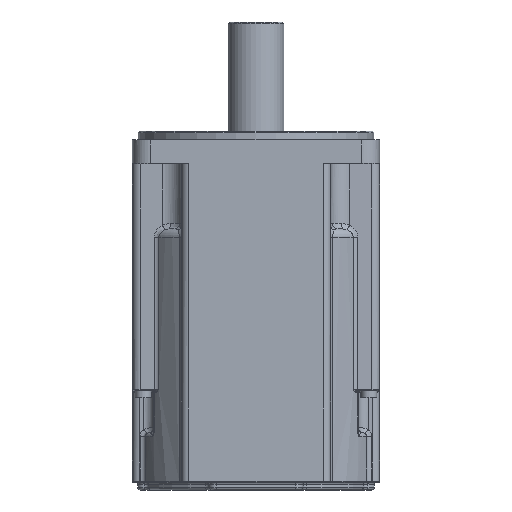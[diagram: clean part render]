
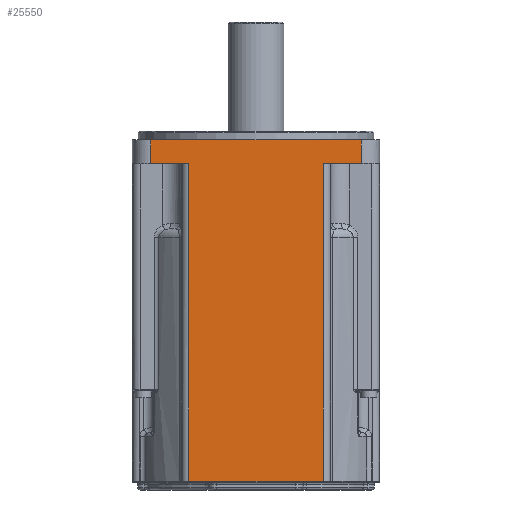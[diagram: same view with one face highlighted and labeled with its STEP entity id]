
A CAD part, front view. The second image highlights one B-rep face of the part: STEP entity #25550.
In plain terms, the highlighted planar face has unit normal (0, -1, 0).
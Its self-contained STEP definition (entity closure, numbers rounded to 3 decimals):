
#9993 = CARTESIAN_POINT ( 'NONE',  ( -35.686, -42., -0.9 ) ) ;
#9994 = DIRECTION ( 'NONE',  ( 1., 0., 0. ) ) ;
#9995 = VECTOR ( 'NONE', #9994, 1000. ) ;
#9996 = CARTESIAN_POINT ( 'NONE',  ( -42., -42., -0.9 ) ) ;
#9997 = LINE ( 'NONE', #9996, #9995 ) ;
#9998 = DIRECTION ( 'NONE',  ( 1., 0., 0. ) ) ;
#9999 = VECTOR ( 'NONE', #9998, 1000. ) ;
#10000 = CARTESIAN_POINT ( 'NONE',  ( 22.752, -42., -116.7 ) ) ;
#10001 = LINE ( 'NONE', #10000, #9999 ) ;
#10018 = CARTESIAN_POINT ( 'NONE',  ( 35.686, -42., -8.9 ) ) ;
#10019 = LINE ( 'NONE', #10018, #10339 ) ;
#10021 = CARTESIAN_POINT ( 'NONE',  ( 35.686, -42., -0.9 ) ) ;
#10053 = DIRECTION ( 'NONE',  ( 0., 0., -1. ) ) ;
#10055 = VECTOR ( 'NONE', #10053, 1000. ) ;
#10056 = CARTESIAN_POINT ( 'NONE',  ( -35.686, -42., -8.9 ) ) ;
#10058 = LINE ( 'NONE', #10056, #10055 ) ;
#10339 = VECTOR ( 'NONE', #10405, 1000. ) ;
#10405 = DIRECTION ( 'NONE',  ( 0., 0., 1. ) ) ;
#12150 = DIRECTION ( 'NONE',  ( 0., 0., -1. ) ) ;
#12151 = VECTOR ( 'NONE', #12150, 1000. ) ;
#12152 = CARTESIAN_POINT ( 'NONE',  ( -22.752, -42., -117.2 ) ) ;
#12153 = LINE ( 'NONE', #12152, #12151 ) ;
#12154 = CARTESIAN_POINT ( 'NONE',  ( -22.752, -42., -116.7 ) ) ;
#22140 = CARTESIAN_POINT ( 'NONE',  ( 22.752, -42., -8.9 ) ) ;
#22141 = CARTESIAN_POINT ( 'NONE',  ( 22.752, -42., -116.7 ) ) ;
#22142 = DIRECTION ( 'NONE',  ( 0., 0., 1. ) ) ;
#22143 = VECTOR ( 'NONE', #22142, 1000. ) ;
#22144 = CARTESIAN_POINT ( 'NONE',  ( 22.752, -42., -8.9 ) ) ;
#22145 = LINE ( 'NONE', #22144, #22143 ) ;
#24492 = DIRECTION ( 'NONE',  ( 0., 0., -1. ) ) ;
#24493 = DIRECTION ( 'NONE',  ( 0., -1., 0. ) ) ;
#24494 = CARTESIAN_POINT ( 'NONE',  ( -42., -42., -8.9 ) ) ;
#24495 = AXIS2_PLACEMENT_3D ( 'NONE', #24494, #24493, #24492 ) ;
#24497 = PLANE ( 'NONE',  #24495 ) ;
#24502 = CARTESIAN_POINT ( 'NONE',  ( -35.686, -42., -8.9 ) ) ;
#24503 = DIRECTION ( 'NONE',  ( 1., 0., 0. ) ) ;
#24504 = VECTOR ( 'NONE', #24503, 1000. ) ;
#24505 = CARTESIAN_POINT ( 'NONE',  ( -42., -42., -8.9 ) ) ;
#24506 = LINE ( 'NONE', #24505, #24504 ) ;
#24507 = CARTESIAN_POINT ( 'NONE',  ( -22.752, -42., -8.9 ) ) ;
#24566 = FACE_OUTER_BOUND ( 'NONE', #25551, .T. ) ;
#24583 = DIRECTION ( 'NONE',  ( 1., 0., 0. ) ) ;
#24584 = VECTOR ( 'NONE', #24583, 1000. ) ;
#24585 = CARTESIAN_POINT ( 'NONE',  ( -42., -42., -8.9 ) ) ;
#24614 = LINE ( 'NONE', #24585, #24584 ) ;
#24615 = CARTESIAN_POINT ( 'NONE',  ( 35.686, -42., -8.9 ) ) ;
#25404 = EDGE_CURVE ( 'NONE', #25405, #25406, #22145, .T. ) ;
#25405 = VERTEX_POINT ( 'NONE', #22141 ) ;
#25406 = VERTEX_POINT ( 'NONE', #22140 ) ;
#25550 = ADVANCED_FACE ( 'NONE', ( #24566 ), #24497, .T. ) ;
#25551 = EDGE_LOOP ( 'NONE', ( #25552, #25553, #25838, #25839, #25840, #25841, #25844, #25846 ) ) ;
#25552 = ORIENTED_EDGE ( 'NONE', *, *, #25710, .T. ) ;
#25553 = ORIENTED_EDGE ( 'NONE', *, *, #25837, .T. ) ;
#25584 = VERTEX_POINT ( 'NONE', #24507 ) ;
#25586 = EDGE_CURVE ( 'NONE', #25587, #25584, #24506, .T. ) ;
#25587 = VERTEX_POINT ( 'NONE', #24502 ) ;
#25618 = VERTEX_POINT ( 'NONE', #24615 ) ;
#25620 = EDGE_CURVE ( 'NONE', #25406, #25618, #24614, .T. ) ;
#25708 = VERTEX_POINT ( 'NONE', #12154 ) ;
#25710 = EDGE_CURVE ( 'NONE', #25584, #25708, #12153, .T. ) ;
#25837 = EDGE_CURVE ( 'NONE', #25708, #25405, #10001, .T. ) ;
#25838 = ORIENTED_EDGE ( 'NONE', *, *, #25404, .T. ) ;
#25839 = ORIENTED_EDGE ( 'NONE', *, *, #25620, .T. ) ;
#25840 = ORIENTED_EDGE ( 'NONE', *, *, #25860, .T. ) ;
#25841 = ORIENTED_EDGE ( 'NONE', *, *, #25842, .F. ) ;
#25842 = EDGE_CURVE ( 'NONE', #25843, #25858, #9997, .T. ) ;
#25843 = VERTEX_POINT ( 'NONE', #9993 ) ;
#25844 = ORIENTED_EDGE ( 'NONE', *, *, #25845, .T. ) ;
#25845 = EDGE_CURVE ( 'NONE', #25843, #25587, #10058, .T. ) ;
#25846 = ORIENTED_EDGE ( 'NONE', *, *, #25586, .T. ) ;
#25858 = VERTEX_POINT ( 'NONE', #10021 ) ;
#25860 = EDGE_CURVE ( 'NONE', #25618, #25858, #10019, .T. ) ;
